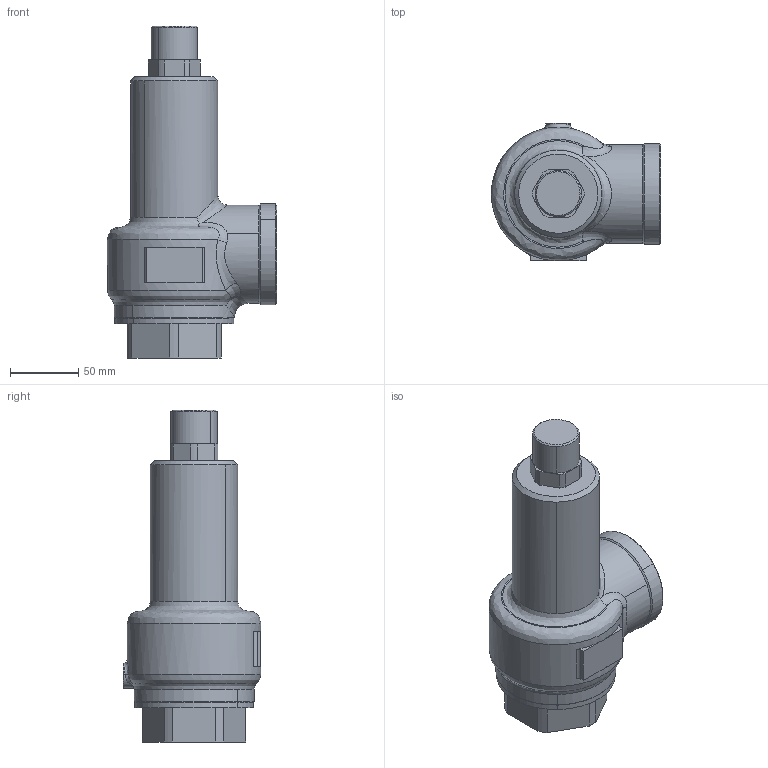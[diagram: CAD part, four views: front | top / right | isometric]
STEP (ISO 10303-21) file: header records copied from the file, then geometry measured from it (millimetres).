
FILE_DESCRIPTION( (''), '2;1');
FILE_NAME ('PC1027.9568.AL-150 50A_17780.stp','2025-07-28T14:29:25',(''),(''),'spGate 19.8.4 (****-****-****-****)','','');
FILE_SCHEMA (('AUTOMOTIVE_DESIGN'));
Length unit declared in the file: millimetre
Bounding box: 124 x 101 x 243.3 mm (x, y, z)
Volume: 1079281.5 mm3; surface area: 78254.2 mm2
Topology: 1 solids, 1 shells, 90 faces, 334 edges, 253 vertices
Faces by surface type: cylinder 35, plane 30, bspline 25
Entity records: 8570 total; most frequent: CARTESIAN_POINT 4004, ORIENTED_EDGE 668, COLOUR_RGB 425, PRESENTATION_STYLE_ASSIGNMENT 425, STYLED_ITEM 425, EDGE_CURVE 334, DRAUGHTING_PRE_DEFINED_CURVE_FONT 334, CURVE_STYLE 334
